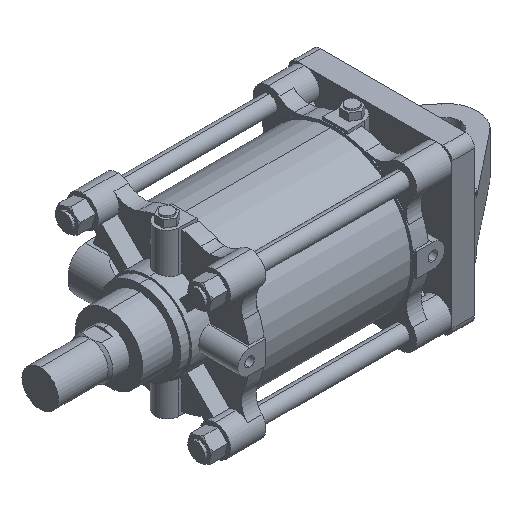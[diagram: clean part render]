
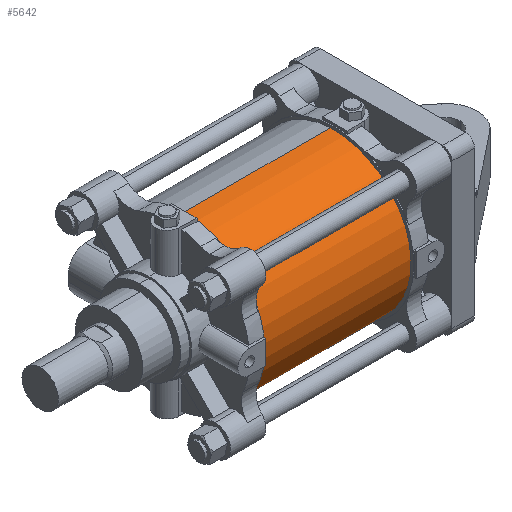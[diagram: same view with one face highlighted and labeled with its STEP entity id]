
A CAD part, isometric view. The second image highlights one B-rep face of the part: STEP entity #5642.
In plain terms, the highlighted cylindrical face has radius 85 mm (diameter 170 mm), a partial arc.
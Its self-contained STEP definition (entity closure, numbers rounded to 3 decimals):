
#184 = LINE ( 'NONE', #3579, #4982 ) ;
#851 = DIRECTION ( 'NONE',  ( -1., 0., 0. ) ) ;
#2066 = EDGE_CURVE ( 'NONE', #7862, #9342, #9907, .T. ) ;
#2378 = EDGE_LOOP ( 'NONE', ( #2394, #6010, #5743, #5193 ) ) ;
#2394 = ORIENTED_EDGE ( 'NONE', *, *, #4120, .F. ) ;
#2599 = VECTOR ( 'NONE', #851, 1000. ) ;
#2788 = DIRECTION ( 'NONE',  ( 1., 0., 0. ) ) ;
#3049 = DIRECTION ( 'NONE',  ( 1., 0., 0. ) ) ;
#3206 = CARTESIAN_POINT ( 'NONE',  ( -82., 0., 85. ) ) ;
#3579 = CARTESIAN_POINT ( 'NONE',  ( 82., 0., -85. ) ) ;
#3792 = CARTESIAN_POINT ( 'NONE',  ( 82., 0., -85. ) ) ;
#3947 = DIRECTION ( 'NONE',  ( 0., 0., 1. ) ) ;
#4120 = EDGE_CURVE ( 'NONE', #7447, #9342, #184, .T. ) ;
#4696 = EDGE_CURVE ( 'NONE', #7351, #7862, #8226, .T. ) ;
#4982 = VECTOR ( 'NONE', #9635, 1000. ) ;
#4994 = DIRECTION ( 'NONE',  ( -1., 0., 0. ) ) ;
#5190 = DIRECTION ( 'NONE',  ( 0., 0., -1. ) ) ;
#5193 = ORIENTED_EDGE ( 'NONE', *, *, #2066, .T. ) ;
#5642 = ADVANCED_FACE ( 'NONE', ( #8613 ), #9658, .T. ) ;
#5715 = CIRCLE ( 'NONE', #7956, 85. ) ;
#5743 = ORIENTED_EDGE ( 'NONE', *, *, #4696, .T. ) ;
#6010 = ORIENTED_EDGE ( 'NONE', *, *, #9172, .F. ) ;
#6341 = CARTESIAN_POINT ( 'NONE',  ( 82., 0., 0. ) ) ;
#7351 = VERTEX_POINT ( 'NONE', #8426 ) ;
#7447 = VERTEX_POINT ( 'NONE', #3792 ) ;
#7448 = AXIS2_PLACEMENT_3D ( 'NONE', #8790, #4994, #3947 ) ;
#7566 = DIRECTION ( 'NONE',  ( 0., 0., -1. ) ) ;
#7862 = VERTEX_POINT ( 'NONE', #3206 ) ;
#7956 = AXIS2_PLACEMENT_3D ( 'NONE', #6341, #3049, #7566 ) ;
#8019 = AXIS2_PLACEMENT_3D ( 'NONE', #9516, #2788, #5190 ) ;
#8057 = CARTESIAN_POINT ( 'NONE',  ( 82., 0., 85. ) ) ;
#8226 = LINE ( 'NONE', #8057, #2599 ) ;
#8426 = CARTESIAN_POINT ( 'NONE',  ( 82., 0., 85. ) ) ;
#8613 = FACE_OUTER_BOUND ( 'NONE', #2378, .T. ) ;
#8790 = CARTESIAN_POINT ( 'NONE',  ( 82., 0., 0. ) ) ;
#9172 = EDGE_CURVE ( 'NONE', #7351, #7447, #5715, .T. ) ;
#9183 = CARTESIAN_POINT ( 'NONE',  ( -82., 0., -85. ) ) ;
#9342 = VERTEX_POINT ( 'NONE', #9183 ) ;
#9516 = CARTESIAN_POINT ( 'NONE',  ( -82., 0., 0. ) ) ;
#9635 = DIRECTION ( 'NONE',  ( -1., 0., 0. ) ) ;
#9658 = CYLINDRICAL_SURFACE ( 'NONE', #7448, 85. ) ;
#9907 = CIRCLE ( 'NONE', #8019, 85. ) ;
